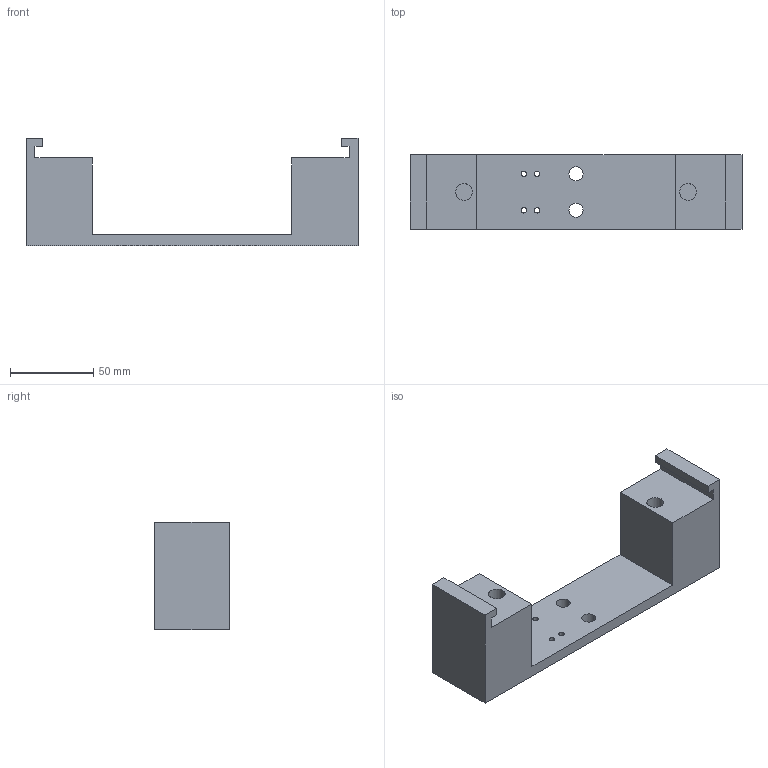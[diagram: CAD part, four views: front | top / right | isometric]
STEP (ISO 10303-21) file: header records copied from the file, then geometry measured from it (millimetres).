
FILE_DESCRIPTION(('CATIA V5 STEP Exchange'),'2;1');
FILE_NAME('G:\够快云库\系统集成开发部\1.部门成员\孙国\工装\气密检测工装\STP\速降阀\GZ-SJQM07_V1 下底座.stp','2021-04-21T01:57:15+00:00',('none'),('none'),'CATIA Version 5 Release 20 GA (IN-10)','CATIA V5 STEP AP214','none');
FILE_SCHEMA(('AUTOMOTIVE_DESIGN { 1 0 10303 214 1 1 1 1 }'));
Length unit declared in the file: millimetre
Products named in the file (1): 下底座
Bounding box: 200 x 45 x 65 mm (x, y, z)
Volume: 232226.5 mm3; surface area: 42043.3 mm2
Topology: 1 solids, 1 shells, 36 faces, 98 edges, 66 vertices
Faces by surface type: plane 20, cylinder 16
Entity records: 1104 total; most frequent: ORIENTED_EDGE 196, CARTESIAN_POINT 189, DIRECTION 146, EDGE_CURVE 98, VECTOR 66, LINE 66, VERTEX_POINT 66, AXIS2_PLACEMENT_3D 57
